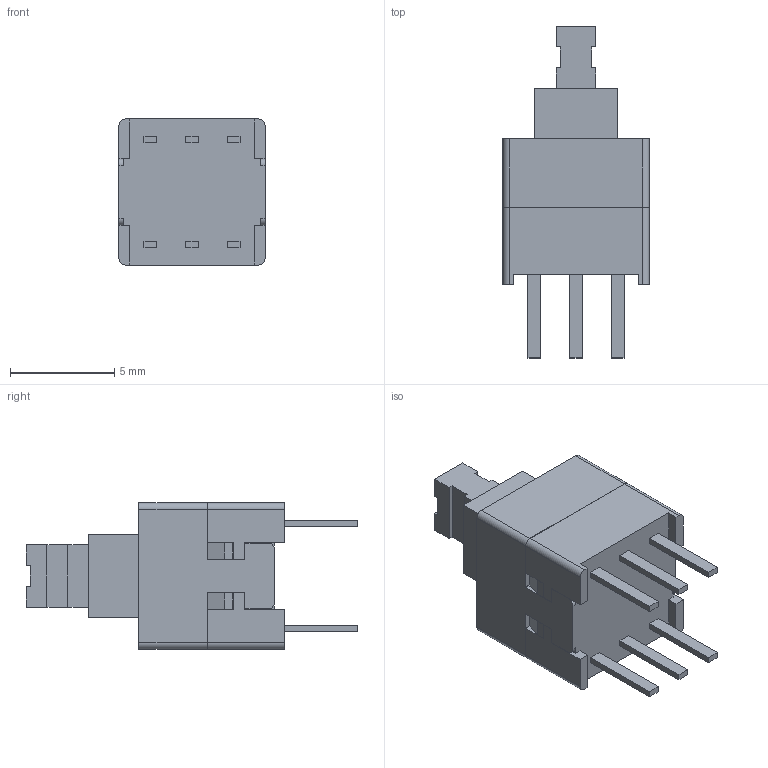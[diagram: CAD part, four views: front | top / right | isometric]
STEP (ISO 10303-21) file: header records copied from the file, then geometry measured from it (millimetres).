
FILE_DESCRIPTION((''),'2;1');
FILE_NAME('PS','2024-03-15T',('WYH'),(''),'PRO/ENGINEER BY PARAMETRIC TECHNOLOGY CORPORATION, 2013040','PRO/ENGINEER BY PARAMETRIC TECHNOLOGY CORPORATION, 2013040','');
FILE_SCHEMA(('CONFIG_CONTROL_DESIGN'));
Length unit declared in the file: millimetre
Products named in the file (1): PS
Bounding box: 7 x 15.9 x 7 mm (x, y, z)
Volume: 376.8 mm3; surface area: 528 mm2
Topology: 1 solids, 1 shells, 371 faces, 1044 edges, 692 vertices
Faces by surface type: plane 359, cylinder 12
Entity records: 11764 total; most frequent: CARTESIAN_POINT 2107, ORIENTED_EDGE 2088, DIRECTION 1810, EDGE_CURVE 1044, VECTOR 1020, LINE 1020, VERTEX_POINT 692, AXIS2_PLACEMENT_3D 395
